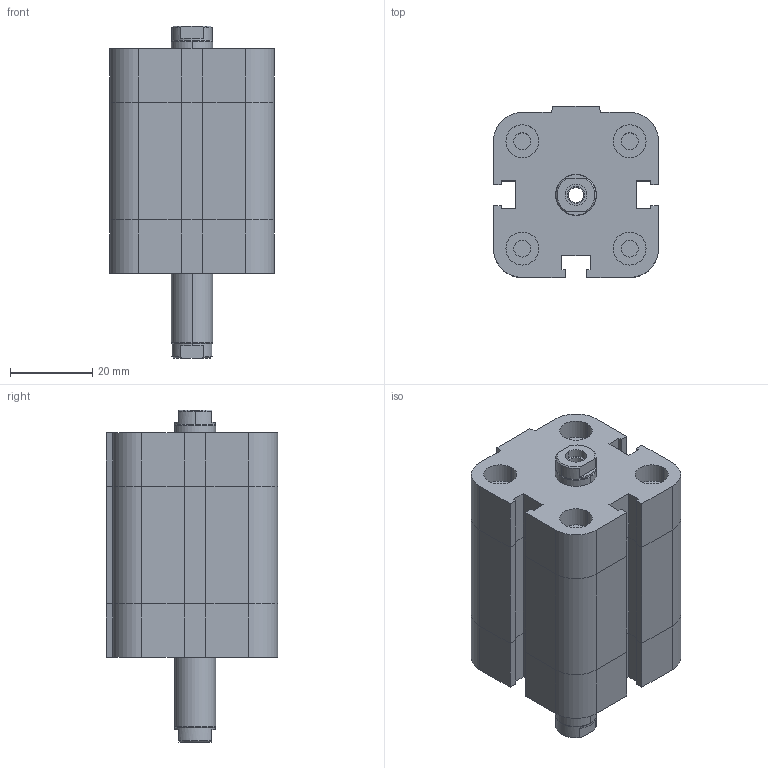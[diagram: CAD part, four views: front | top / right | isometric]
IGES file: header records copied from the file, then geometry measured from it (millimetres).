
Global section: file name: No Iges File Name specified; native system: Autodesk Inventor 2009; preprocessor: AutoDesk Inventor Iges Exporter R2009; author: maffial1; date: 20090420.201156; units: millimetre
Bounding box: 40 x 41.5 x 80.5 mm (x, y, z)
Volume: 77741.5 mm3; surface area: 21279.2 mm2
Topology: 2 solids, 2 shells, 204 faces, 456 edges, 278 vertices
Faces by surface type: plane 114, bspline 44, revolution 20, cylinder 18, cone 8
